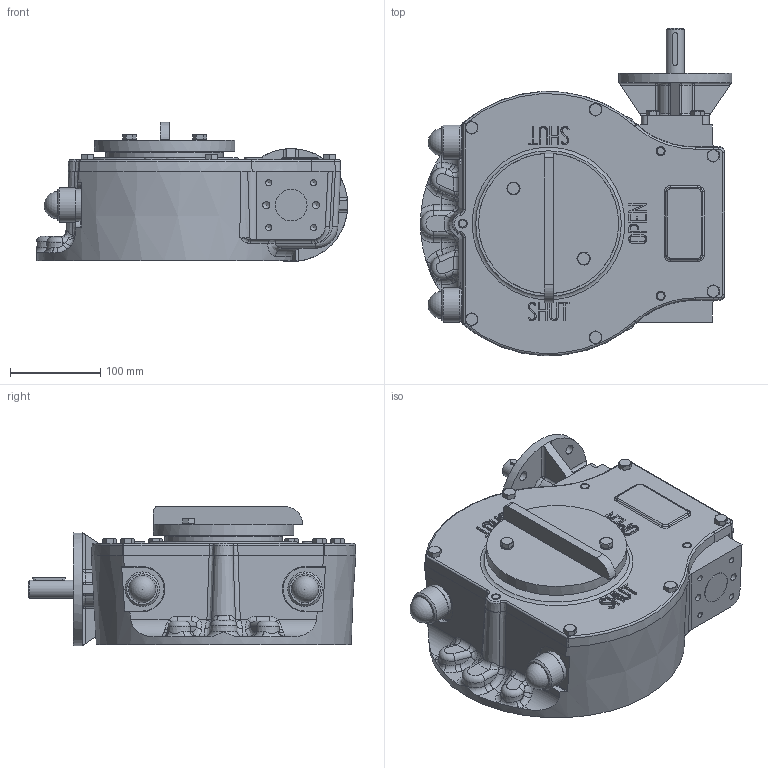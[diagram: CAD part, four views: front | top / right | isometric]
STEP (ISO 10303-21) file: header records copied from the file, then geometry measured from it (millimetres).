
FILE_DESCRIPTION( ( 'Unknown' ), '1' );
FILE_NAME( 'M:/Current Drawings/Internet datasheets/4 - STEP/E3000N LH.stp', 'Unknown', ( 'Unknown' ), ( 'Unknown' ), 'PSStep 15.0.49', 'Unknown', ' ' );
FILE_SCHEMA( ( 'AUTOMOTIVE_DESIGN { 1 0 10303 214 1 1 1 1 }' ) );
Length unit declared in the file: millimetre
Products named in the file (1): AB3000A20
Bounding box: 344.35 x 362.16 x 153.94 mm (x, y, z)
Volume: 5988542 mm3; surface area: 680526.1 mm2
Topology: 1 solids, 42 shells, 1657 faces, 4036 edges, 2387 vertices
Faces by surface type: plane 452, cylinder 349, cone 278, bspline 268, torus 200, sphere 94, extrusion 16
Full cylindrical faces by diameter (mm): 6.647 x32, 7.1 x4, 8 x16, 8.376 x4, 8.5 x6, 9 x6, 10 x6, 11 x4, 14 x2, 20 x3, 25 x6, 26 x2, 28 x2, 30 x2, 35 x3, 36 x2, 38 x4, 47 x2, 70 x1, 125 x1, 125.95 x2, 130 x6, 155 x1
Entity records: 97709 total; most frequent: CARTESIAN_POINT 50322, ORIENTED_EDGE 7152, DIRECTION 6645, EDGE_CURVE 3576, AXIS2_PLACEMENT_3D 2897, VERTEX_POINT 2279, EDGE_LOOP 1968, FACE_OUTER_BOUND 1803
